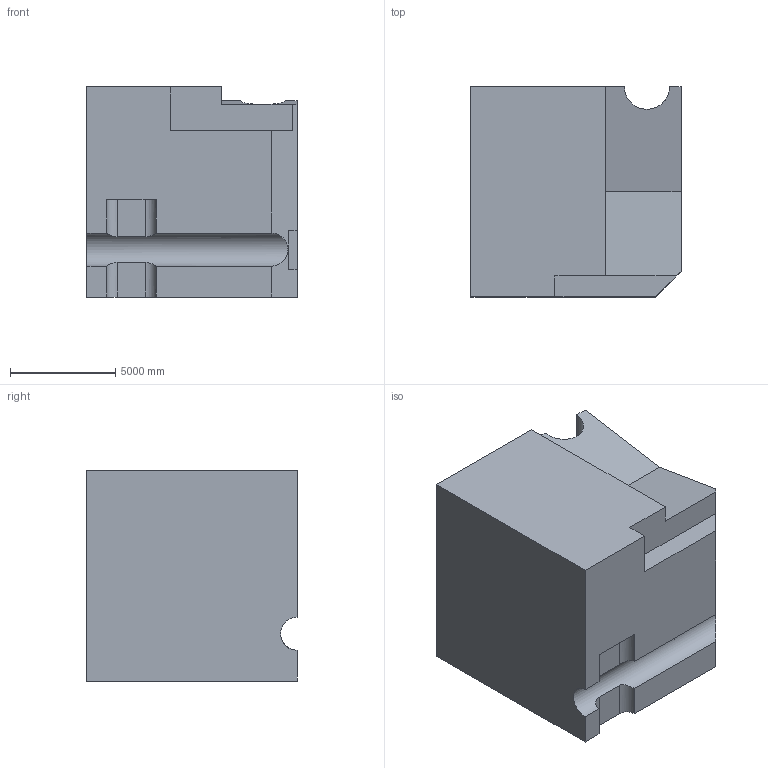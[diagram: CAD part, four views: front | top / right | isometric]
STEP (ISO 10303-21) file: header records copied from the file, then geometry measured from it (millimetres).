
FILE_DESCRIPTION (( 'STEP AP203' ), '1' );
FILE_NAME ('80.STEP', '2022-09-01T12:00:35', ( 'user' ), ( '' ), 'SwSTEP 2.0', 'SolidWorks 2021', '' );
FILE_SCHEMA (( 'CONFIG_CONTROL_DESIGN' ));
Length unit declared in the file: centimetre
Products named in the file (1): 80
Bounding box: 10000 x 10000 x 10000 mm (x, y, z)
Volume: 894783166444.4 mm3; surface area: 682099797.3 mm2
Topology: 1 solids, 1 shells, 37 faces, 99 edges, 66 vertices
Faces by surface type: plane 29, cylinder 8
Entity records: 1424 total; most frequent: CARTESIAN_POINT 421, ORIENTED_EDGE 198, DIRECTION 179, EDGE_CURVE 99, VECTOR 83, LINE 83, VERTEX_POINT 66, AXIS2_PLACEMENT_3D 48
